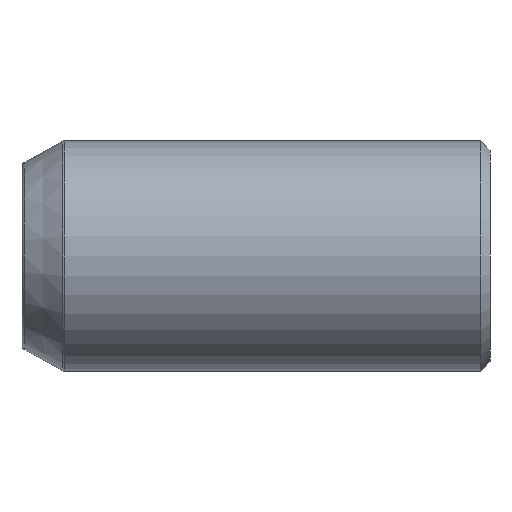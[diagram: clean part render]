
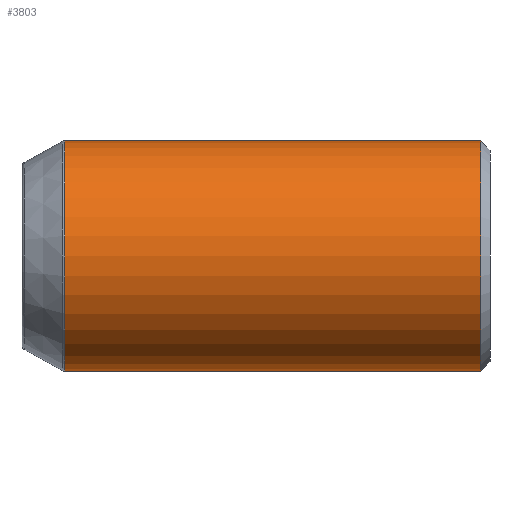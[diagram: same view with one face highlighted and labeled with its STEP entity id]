
A CAD part, left-side view. The second image highlights one B-rep face of the part: STEP entity #3803.
In plain terms, the highlighted cylindrical face has radius 12.5 mm (diameter 25 mm), a partial arc.
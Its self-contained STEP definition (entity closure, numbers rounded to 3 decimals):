
#191 = DIRECTION ( 'NONE',  ( 0., -1., 0. ) ) ;
#913 = FACE_OUTER_BOUND ( 'NONE', #6600, .T. ) ;
#1315 = LINE ( 'NONE', #7501, #1910 ) ;
#1464 = VECTOR ( 'NONE', #6397, 1000. ) ;
#1486 = CARTESIAN_POINT ( 'NONE',  ( -6.15, 43.688, -12.5 ) ) ;
#1910 = VECTOR ( 'NONE', #4608, 1000. ) ;
#2101 = CARTESIAN_POINT ( 'NONE',  ( -6.15, 39.058, -12.5 ) ) ;
#2113 = DIRECTION ( 'NONE',  ( 0., 0., -1. ) ) ;
#2329 = VERTEX_POINT ( 'NONE', #2101 ) ;
#2762 = VERTEX_POINT ( 'NONE', #4004 ) ;
#3556 = EDGE_CURVE ( 'NONE', #4867, #2762, #7777, .T. ) ;
#3702 = CYLINDRICAL_SURFACE ( 'NONE', #4620, 12.5 ) ;
#3803 = ADVANCED_FACE ( 'NONE', ( #913 ), #3702, .T. ) ;
#4004 = CARTESIAN_POINT ( 'NONE',  ( -6.15, -6.112, 12.5 ) ) ;
#4054 = VERTEX_POINT ( 'NONE', #7470 ) ;
#4591 = EDGE_CURVE ( 'NONE', #4054, #2762, #1315, .T. ) ;
#4608 = DIRECTION ( 'NONE',  ( 0., -1., 0. ) ) ;
#4620 = AXIS2_PLACEMENT_3D ( 'NONE', #6461, #191, #2113 ) ;
#4643 = DIRECTION ( 'NONE',  ( 0., -1., 0. ) ) ;
#4715 = EDGE_CURVE ( 'NONE', #2329, #4867, #7757, .T. ) ;
#4867 = VERTEX_POINT ( 'NONE', #5683 ) ;
#5409 = CARTESIAN_POINT ( 'NONE',  ( -6.15, 39.058, 0. ) ) ;
#5483 = AXIS2_PLACEMENT_3D ( 'NONE', #5802, #7887, #7119 ) ;
#5683 = CARTESIAN_POINT ( 'NONE',  ( -6.15, -6.112, -12.5 ) ) ;
#5802 = CARTESIAN_POINT ( 'NONE',  ( -6.15, -6.112, 0. ) ) ;
#5926 = ORIENTED_EDGE ( 'NONE', *, *, #7265, .T. ) ;
#6281 = ORIENTED_EDGE ( 'NONE', *, *, #4591, .F. ) ;
#6397 = DIRECTION ( 'NONE',  ( 0., -1., 0. ) ) ;
#6461 = CARTESIAN_POINT ( 'NONE',  ( -6.15, 43.688, 0. ) ) ;
#6597 = CIRCLE ( 'NONE', #7751, 12.5 ) ;
#6600 = EDGE_LOOP ( 'NONE', ( #6281, #5926, #7782, #8944 ) ) ;
#7119 = DIRECTION ( 'NONE',  ( 0., 0., 1. ) ) ;
#7265 = EDGE_CURVE ( 'NONE', #4054, #2329, #6597, .T. ) ;
#7470 = CARTESIAN_POINT ( 'NONE',  ( -6.15, 39.058, 12.5 ) ) ;
#7501 = CARTESIAN_POINT ( 'NONE',  ( -6.15, 43.688, 12.5 ) ) ;
#7751 = AXIS2_PLACEMENT_3D ( 'NONE', #5409, #4643, #8071 ) ;
#7757 = LINE ( 'NONE', #1486, #1464 ) ;
#7777 = CIRCLE ( 'NONE', #5483, 12.5 ) ;
#7782 = ORIENTED_EDGE ( 'NONE', *, *, #4715, .T. ) ;
#7887 = DIRECTION ( 'NONE',  ( 0., 1., 0. ) ) ;
#8071 = DIRECTION ( 'NONE',  ( 0., 0., 1. ) ) ;
#8944 = ORIENTED_EDGE ( 'NONE', *, *, #3556, .T. ) ;
